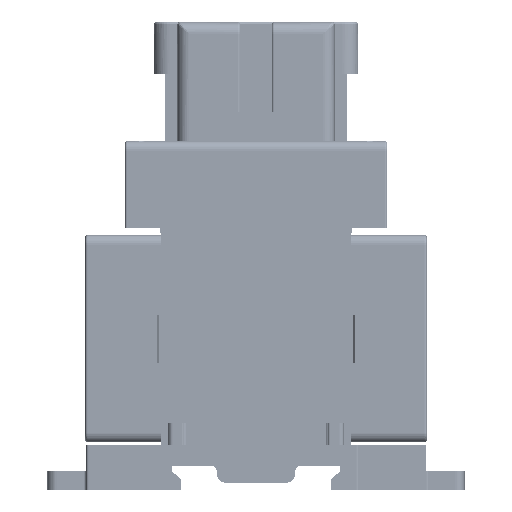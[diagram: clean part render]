
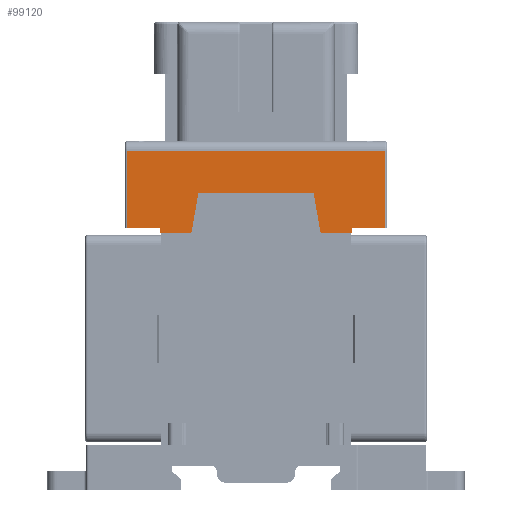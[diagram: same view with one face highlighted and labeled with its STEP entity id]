
A CAD part, left-side view. The second image highlights one B-rep face of the part: STEP entity #99120.
In plain terms, the highlighted planar face has unit normal (-1, 0, 0) as drawn and (1, 0, 0) by its records, which use the part's own axes.
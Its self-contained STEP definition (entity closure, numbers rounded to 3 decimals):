
#90746=DIRECTION('',(0.,1.,0.));
#90747=VECTOR('',#90746,54.1);
#90748=CARTESIAN_POINT('',(1100.304,432.116,
-129.));
#90749=LINE('',#90748,#90747);
#91388=DIRECTION('',(0.,0.,1.));
#91389=VECTOR('',#91388,16.25);
#91390=CARTESIAN_POINT('',(1100.304,432.116,
-129.));
#91391=LINE('',#91390,#91389);
#91392=DIRECTION('',(0.,0.174,-0.985));
#91393=VECTOR('',#91392,8.377);
#91394=CARTESIAN_POINT('',(1100.304,445.607,
-111.75));
#91395=LINE('',#91394,#91393);
#91396=DIRECTION('',(0.,0.174,0.985));
#91397=VECTOR('',#91396,8.377);
#91398=CARTESIAN_POINT('',(1100.304,471.269,
-120.));
#91399=LINE('',#91398,#91397);
#91400=DIRECTION('',(0.,1.,0.));
#91401=VECTOR('',#91400,6.542);
#91402=CARTESIAN_POINT('',(1100.304,472.724,
-111.75));
#91403=LINE('',#91402,#91401);
#91404=DIRECTION('',(0.,1.,0.));
#91405=VECTOR('',#91404,6.95);
#91406=CARTESIAN_POINT('',(1100.304,479.266,
-112.75));
#91407=LINE('',#91406,#91405);
#91408=DIRECTION('',(0.,0.,-1.));
#91409=VECTOR('',#91408,16.25);
#91410=CARTESIAN_POINT('',(1100.304,486.216,
-112.75));
#91411=LINE('',#91410,#91409);
#91451=DIRECTION('',(0.,-1.,0.));
#91452=VECTOR('',#91451,6.95);
#91453=CARTESIAN_POINT('',(1100.304,439.065,
-112.75));
#91454=LINE('',#91453,#91452);
#93079=DIRECTION('',(0.,-1.,0.));
#93080=VECTOR('',#93079,6.542);
#93081=CARTESIAN_POINT('',(1100.304,445.607,
-111.75));
#93082=LINE('',#93081,#93080);
#93896=DIRECTION('',(0.,-1.,0.));
#93897=VECTOR('',#93896,24.208);
#93898=CARTESIAN_POINT('',(1100.304,471.269,
-120.));
#93899=LINE('',#93898,#93897);
#94710=DIRECTION('',(0.,0.,1.));
#94711=VECTOR('',#94710,1.);
#94712=CARTESIAN_POINT('',(1100.304,479.266,
-112.75));
#94713=LINE('',#94712,#94711);
#95080=DIRECTION('',(0.,0.,-1.));
#95081=VECTOR('',#95080,1.);
#95082=CARTESIAN_POINT('',(1100.304,439.065,
-111.75));
#95083=LINE('',#95082,#95081);
#96446=CARTESIAN_POINT('',(1100.304,432.116,
-129.));
#96447=VERTEX_POINT('',#96446);
#96448=CARTESIAN_POINT('',(1100.304,486.216,
-129.));
#96449=VERTEX_POINT('',#96448);
#96588=CARTESIAN_POINT('',(1100.304,486.216,
-112.75));
#96590=VERTEX_POINT('',#96588);
#96591=CARTESIAN_POINT('',(1100.304,479.266,
-112.75));
#96592=VERTEX_POINT('',#96591);
#96601=CARTESIAN_POINT('',(1100.304,432.116,
-112.75));
#96602=VERTEX_POINT('',#96601);
#96603=CARTESIAN_POINT('',(1100.304,439.065,
-112.75));
#96604=VERTEX_POINT('',#96603);
#96605=CARTESIAN_POINT('',(1100.304,439.065,
-111.75));
#96606=VERTEX_POINT('',#96605);
#96607=CARTESIAN_POINT('',(1100.304,445.607,
-111.75));
#96608=VERTEX_POINT('',#96607);
#96609=CARTESIAN_POINT('',(1100.304,447.062,
-120.));
#96610=VERTEX_POINT('',#96609);
#96611=CARTESIAN_POINT('',(1100.304,471.269,
-120.));
#96612=VERTEX_POINT('',#96611);
#96613=CARTESIAN_POINT('',(1100.304,472.724,
-111.75));
#96614=VERTEX_POINT('',#96613);
#96615=CARTESIAN_POINT('',(1100.304,479.266,
-111.75));
#96616=VERTEX_POINT('',#96615);
#99092=CARTESIAN_POINT('',(1100.304,486.716,
-129.5));
#99093=DIRECTION('',(1.,0.,0.));
#99094=DIRECTION('',(0.,0.,-1.));
#99095=AXIS2_PLACEMENT_3D('',#99092,#99093,#99094);
#99096=PLANE('',#99095);
#99097=ORIENTED_EDGE('',*,*,#98307,.F.);
#99099=ORIENTED_EDGE('',*,*,#99098,.T.);
#99101=ORIENTED_EDGE('',*,*,#99100,.F.);
#99103=ORIENTED_EDGE('',*,*,#99102,.F.);
#99105=ORIENTED_EDGE('',*,*,#99104,.F.);
#99107=ORIENTED_EDGE('',*,*,#99106,.T.);
#99109=ORIENTED_EDGE('',*,*,#99108,.F.);
#99111=ORIENTED_EDGE('',*,*,#99110,.T.);
#99113=ORIENTED_EDGE('',*,*,#99112,.T.);
#99115=ORIENTED_EDGE('',*,*,#99114,.F.);
#99116=ORIENTED_EDGE('',*,*,#99076,.T.);
#99117=ORIENTED_EDGE('',*,*,#99066,.T.);
#99118=EDGE_LOOP('',(#99097,#99099,#99101,#99103,#99105,#99107,#99109,#99111,
#99113,#99115,#99116,#99117));
#99119=FACE_OUTER_BOUND('',#99118,.F.);
#99120=ADVANCED_FACE('',(#99119),#99096,.T.);
#98307=EDGE_CURVE('',#96447,#96449,#90749,.T.);
#99066=EDGE_CURVE('',#96590,#96449,#91411,.T.);
#99076=EDGE_CURVE('',#96592,#96590,#91407,.T.);
#99098=EDGE_CURVE('',#96447,#96602,#91391,.T.);
#99100=EDGE_CURVE('',#96604,#96602,#91454,.T.);
#99102=EDGE_CURVE('',#96606,#96604,#95083,.T.);
#99104=EDGE_CURVE('',#96608,#96606,#93082,.T.);
#99106=EDGE_CURVE('',#96608,#96610,#91395,.T.);
#99108=EDGE_CURVE('',#96612,#96610,#93899,.T.);
#99110=EDGE_CURVE('',#96612,#96614,#91399,.T.);
#99112=EDGE_CURVE('',#96614,#96616,#91403,.T.);
#99114=EDGE_CURVE('',#96592,#96616,#94713,.T.);
